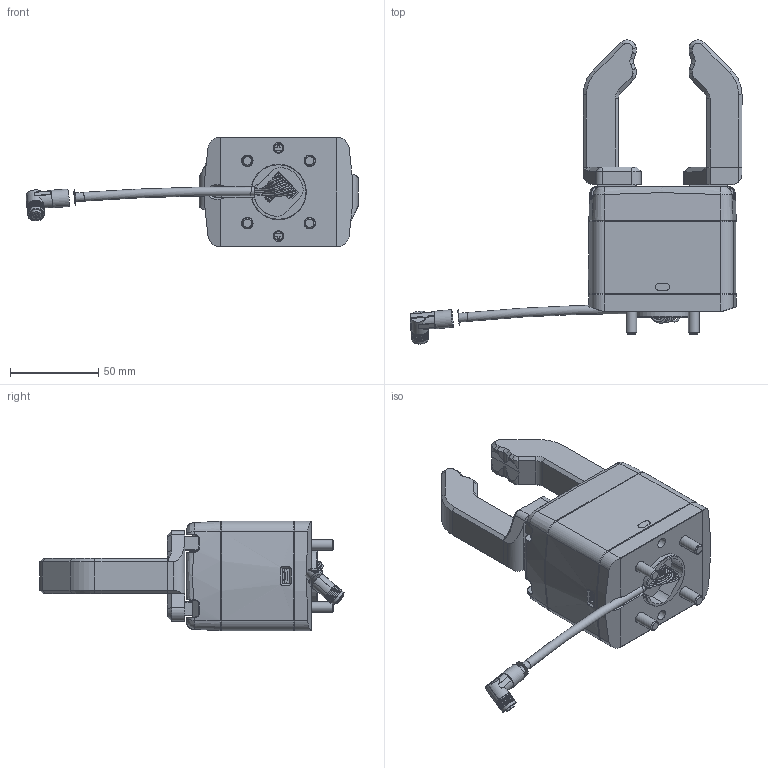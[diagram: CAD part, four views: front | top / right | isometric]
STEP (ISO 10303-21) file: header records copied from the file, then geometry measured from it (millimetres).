
FILE_DESCRIPTION(/* description */ (''),/* implementation_level */ '2;1');
FILE_NAME(/* name */ 'W-GPE063-H1-V1.stp',/* time_stamp */ '2025-11-10T12:20:51+01:00',/* author */ ('vbednarz'),/* organization */ (''),/* preprocessor_version */ 'ST-DEVELOPER v20.1',/* originating_system */ 'Autodesk Inventor 2026',/* authorisation */ '');
FILE_SCHEMA (('AUTOMOTIVE_DESIGN { 1 0 10303 214 3 1 1 }'));
Products named in the file (1): 3D_W-GPE063-H1-V1
Bounding box: 188.05 x 172.31 x 62 mm (x, y, z)
Volume: 417675 mm3; surface area: 71642.3 mm2
Topology: 13 solids, 56 shells, 3229 faces, 8409 edges, 5496 vertices
Faces by surface type: plane 1837, bspline 600, cylinder 553, cone 174, torus 58, sphere 7
Full cylindrical faces by diameter (mm): 0.7 x8, 1 x8, 1.2 x1, 1.567 x2, 2 x2, 3.242 x8, 3.8 x12, 4 x22, 4.016 x8, 4.03 x4, 4.2 x12, 5 x4, 5.8 x2, 6 x12, 6.006 x4, 6.037 x2, 6.5 x4, 7 x10, 7.6 x6, 7.75 x2, 8 x2, 9.35 x1, 10 x5, 11 x4
Entity records: 121556 total; most frequent: CARTESIAN_POINT 41992, ORIENTED_EDGE 16736, DIRECTION 13871, EDGE_CURVE 8368, VERTEX_POINT 5496, LINE 5449, VECTOR 5449, AXIS2_PLACEMENT_3D 4211
